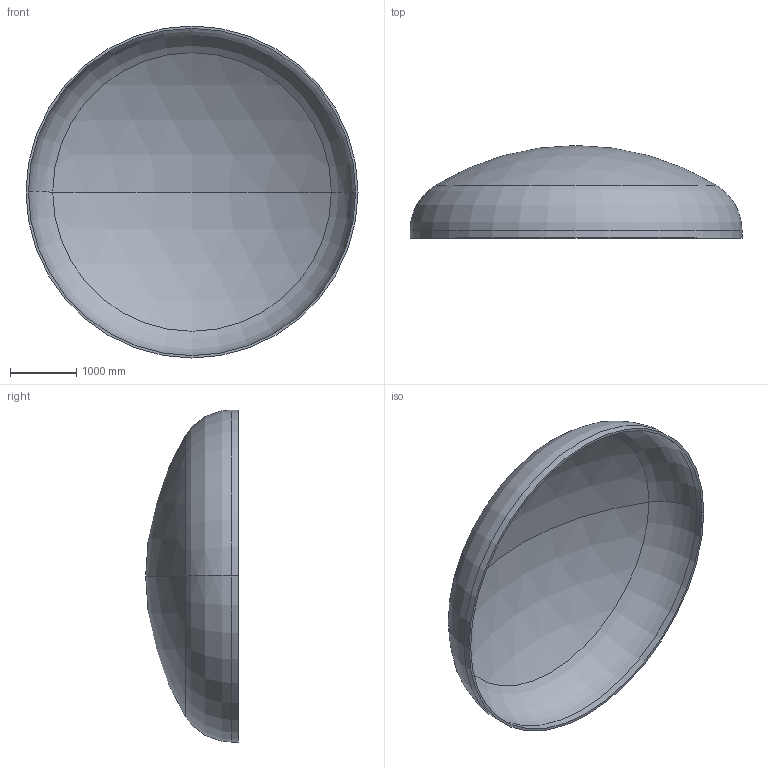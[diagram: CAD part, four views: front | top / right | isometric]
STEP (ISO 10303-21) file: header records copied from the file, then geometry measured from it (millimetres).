
FILE_DESCRIPTION (( 'STEP AP203' ), '1' );
FILE_NAME ('DIN 28013 Korbbogenform_-_Boden DIN 28013 - 5000 x 110 - I - s=36.step', '2016-07-02T00:24:21', ( '' ), ( '' ), 'SwSTEP 2.0', 'SolidWorks 2013', '' );
FILE_SCHEMA (( 'CONFIG_CONTROL_DESIGN' ));
Length unit declared in the file: millimetre
Products named in the file (1): DIN 28013 Korbbogenform_-_Boden DIN 28013 - 5000 x 110 - I - s=36
Bounding box: 5000 x 1395.86 x 5000 mm (x, y, z)
Volume: 1031479325.7 mm3; surface area: 57868514.5 mm2
Topology: 1 solids, 1 shells, 13 faces, 24 edges, 14 vertices
Faces by surface type: torus 4, cylinder 4, sphere 4, plane 1
Entity records: 407 total; most frequent: DIRECTION 72, CARTESIAN_POINT 52, ORIENTED_EDGE 48, AXIS2_PLACEMENT_3D 34, EDGE_CURVE 24, CIRCLE 20, VERTEX_POINT 14, EDGE_LOOP 14
